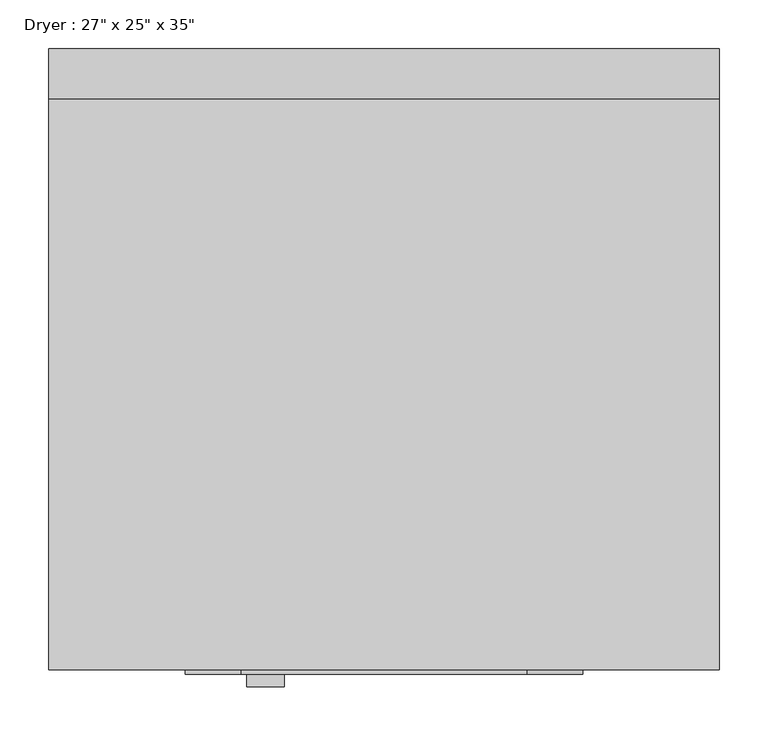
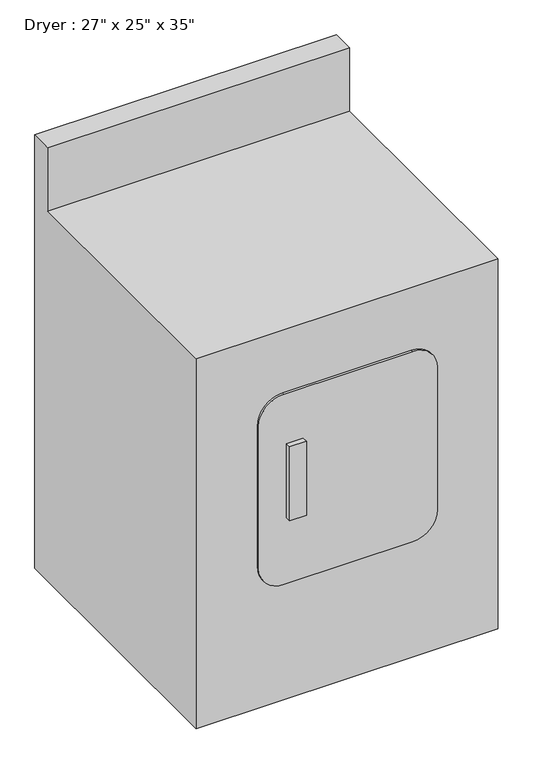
"""IFC4 building model written with IfcOpenShell, lengths in millimetres: proxy geometry."""

from ifc_helpers import new_model, si_unit, point, frame, frame_2d, origin, place, context, project, spatial, polyline, circle_curve, trimmed, segment, composite_curve, outline, extrude, source, transform, mapped, element, save


def proxy_b4d0e45e(model_context):
    return source(origin(), model_context, "Body", "SweptSolid", [
        extrude(outline(polyline([(276.7635206, -20.3014962), (238.6635206, -20.3014962), (238.6635206, -7.6014962), (276.7635206, -7.6014962), (276.7635206, -20.3014962)])), frame((0.0, 0.0, 438.7649313), z_axis=(0.0, 0.0, 1.0), x_axis=(1.0, 0.0, 0.0)), (0.0, 0.0, 1.0), 177.8),
        extrude(outline(composite_curve([segment(polyline([(737.623844, 525.0374563), (737.623844, 232.9374563)]), True, "CONTINUOUS"), segment(trimmed(circle_curve(frame_2d((680.473844, 232.9374563)), 57.15), [point((737.623844, 232.9374563))], [point((680.473844, 175.7874563))], False, "CARTESIAN"), True, "CONTINUOUS"), segment(polyline([(680.473844, 175.7874563), (337.573844, 175.7874563)]), True, "CONTINUOUS"), segment(trimmed(circle_curve(frame_2d((337.573844, 232.9374563)), 57.15), [point((337.573844, 175.7874563))], [point((280.423844, 232.9374563))], False, "CARTESIAN"), True, "CONTINUOUS"), segment(polyline([(280.423844, 232.9374563), (280.423844, 525.0374563)]), True, "CONTINUOUS"), segment(trimmed(circle_curve(frame_2d((337.573844, 525.0374563)), 57.15), [point((280.423844, 525.0374563))], [point((337.573844, 582.1874563))], False, "CARTESIAN"), True, "CONTINUOUS"), segment(polyline([(337.573844, 582.1874563), (680.473844, 582.1874563)]), True, "CONTINUOUS"), segment(trimmed(circle_curve(frame_2d((680.473844, 525.0374563)), 57.15), [point((680.473844, 582.1874563))], [point((737.623844, 525.0374563))], False, "CARTESIAN"), True, "CONTINUOUS")], self_intersect=False)), frame((0.0, -7.6014962, 0.0), z_axis=(0.0, 1.0, 0.0), x_axis=(0.0, 0.0, 1.0)), (0.0, 0.0, 1.0), 4.7625),
        extrude(outline(polyline([(632.1610038, 0.0), (-2.8389962, 0.0), (-2.8389962, 889.0), (581.3610038, 889.0), (581.3610038, 1041.4), (632.1610038, 1041.4), (632.1610038, 0.0)])), frame((36.0874563, 0.0, 0.0), z_axis=(1.0, 0.0, 0.0), x_axis=(0.0, 1.0, 0.0)), (0.0, 0.0, 1.0), 685.8),
    ])


if __name__ == "__main__":
    model = new_model("IFC4")
    model_context = context("Model", 3, world=origin())
    ifc_project = project(units=[si_unit("LENGTHUNIT", "METRE", prefix="MILLI")], contexts=[model_context])
    site = spatial("IfcSite", under=ifc_project)
    building = spatial("IfcBuilding", under=site)
    placement = place(None, origin())
    proxy_shape = proxy_b4d0e45e(model_context)
    element("IfcBuildingElementProxy", 1, Name="Dryer : 27\" x 25\" x 35\"", ObjectType="Dryer : 27\" x 25\" x 35\"", at=placement, inside=building, context=model_context, shape_type="MappedRepresentation", body=[
        mapped(proxy_shape, transform((0.0, 0.0, 0.0), x_axis=(1.0, 0.0, 0.0), y_axis=(0.0, 1.0, 0.0), z_axis=(0.0, 0.0, 1.0))),
    ])
    save(model, "model.ifc")
